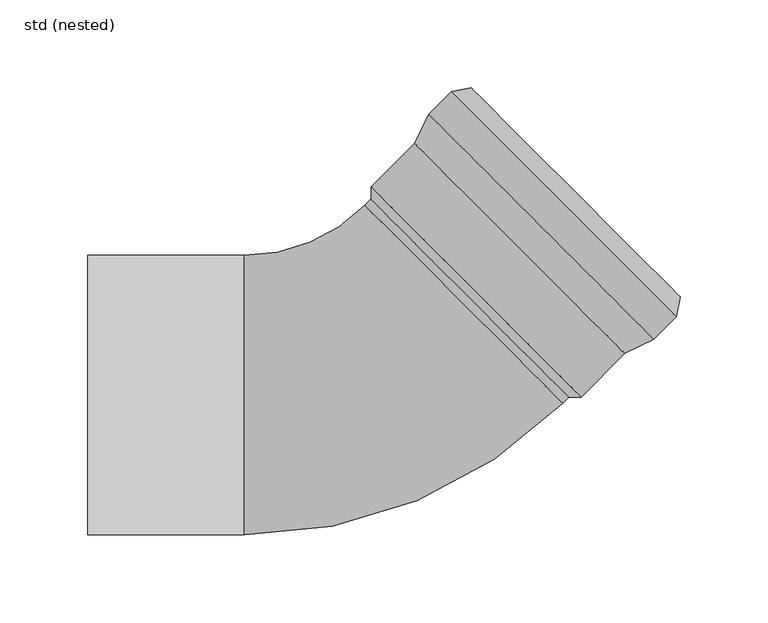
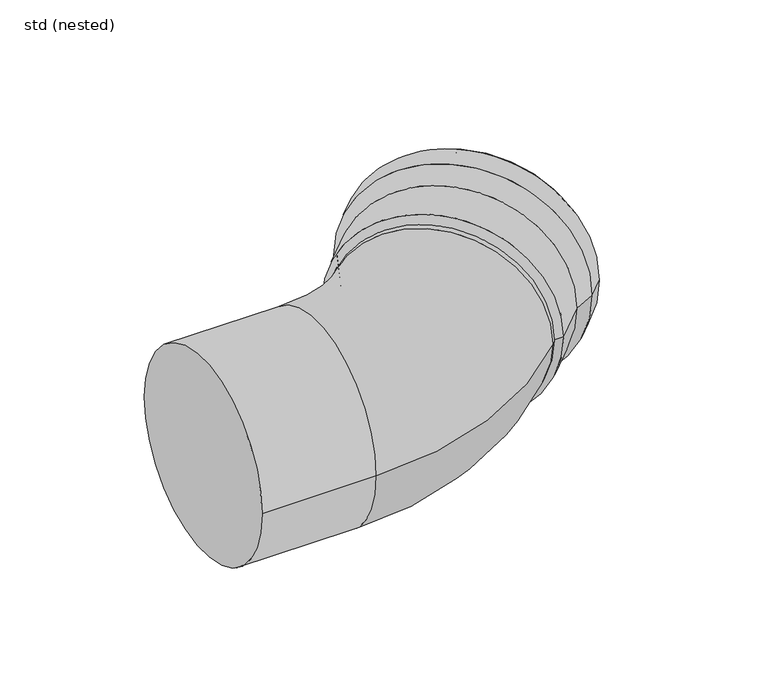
"""IFC4 building model written with IfcOpenShell, lengths in millimetres: pipe fitting geometry, ZZZ_do not use_PIF_ST_UN_GM-X pipe bend_ACO : std (nested)."""

from ifc_helpers import new_model, si_unit, point, frame, origin, place, context, project, spatial, polyline, circle_curve, ellipse_curve, trimmed, source, transform, mapped, element, save
from ifc_brep_helpers import plane_surface, cylinder_surface, revolved_surface, advanced_brep


def std_nested_8823e034(model_context):
    return source(origin(), model_context, "Body", "AdvancedBrep", [
        advanced_brep(
        [(159.8061325, 31.8198052, 0.0), (31.8198052, 159.8061325, 0.0), (44.5477272, 172.5340546, 0.0), (172.5340546, 44.5477272, 0.0), (143.1891232, 23.6880772, 0.0), (23.6880772, 143.1891232, 0.0), (55.8614357, 174.655375, 0.0), (174.655375, 55.8614357, 0.0), (118.4403858, -1.0606602, 0.0), (-1.0606602, 118.4403858, 0.0), (111.369318, -1.0606602, 0.0), (-1.0606602, 111.369318, 0.0), (114.9048519, 2.4748737, 0.0), (2.4748737, 114.9048519, 0.0), (141.7159841, 25.7504719, 0.0), (25.7504719, 141.7159841, 0.0), (0.7071068, 116.6726189, 0.0), (116.6726189, 0.7071068, 0.0), (158.3329934, 33.8821999, 0.0), (33.8821999, 158.3329934, 0.0), (170.2194046, 45.7686111, 0.0), (45.7686111, 170.2194046, 0.0), (172.1981945, 56.3221571, 0.0), (56.3221571, 172.1981945, 0.0)],
        [
            (0, 1, circle_curve(frame((95.8129689, 95.8129689, 0.0), z_axis=(0.707106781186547, 0.707106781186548, 0.0), x_axis=(-0.707106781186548, 0.707106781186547, 0.0)), 90.5)),
            (1, 2),
            (2, 3, circle_curve(frame((108.5408909, 108.5408909, 0.0), z_axis=(-0.707106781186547, -0.707106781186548, 0.0), x_axis=(-0.707106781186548, 0.707106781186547, 0.0)), 90.5)),
            (3, 0),
            (1, 0, circle_curve(frame((95.8129689, 95.8129689, 0.0), z_axis=(0.707106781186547, 0.707106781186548, 0.0), x_axis=(-0.707106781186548, 0.707106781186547, 0.0)), 90.5)),
            (3, 2, circle_curve(frame((108.5408909, 108.5408909, 0.0), z_axis=(-0.707106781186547, -0.707106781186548, 0.0), x_axis=(-0.707106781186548, 0.707106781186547, 0.0)), 90.5)),
            (4, 5, circle_curve(frame((83.4386002, 83.4386002, 0.0), z_axis=(0.707106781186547, 0.707106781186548, 0.0), x_axis=(-0.707106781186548, 0.707106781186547, 0.0)), 84.5)),
            (5, 1),
            (0, 4),
            (5, 4, circle_curve(frame((83.4386002, 83.4386002, 0.0), z_axis=(0.707106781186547, 0.707106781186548, 0.0), x_axis=(-0.707106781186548, 0.707106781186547, 0.0)), 84.5)),
            (2, 6),
            (6, 7, circle_curve(frame((115.2584053, 115.2584053, 0.0), z_axis=(-0.707106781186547, -0.707106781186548, 0.0), x_axis=(-0.707106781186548, 0.707106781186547, 0.0)), 84.0)),
            (7, 3),
            (7, 6, circle_curve(frame((115.2584053, 115.2584053, 0.0), z_axis=(-0.707106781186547, -0.707106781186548, 0.0), x_axis=(-0.707106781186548, 0.707106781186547, 0.0)), 84.0)),
            (8, 9, circle_curve(frame((58.6898628, 58.6898628, 0.0), z_axis=(0.707106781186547, 0.707106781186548, 0.0), x_axis=(-0.707106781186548, 0.707106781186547, 0.0)), 84.5)),
            (9, 5),
            (4, 8),
            (9, 8, circle_curve(frame((58.6898628, 58.6898628, 0.0), z_axis=(0.707106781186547, 0.707106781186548, 0.0), x_axis=(-0.707106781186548, 0.707106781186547, 0.0)), 84.5)),
            (10, 11, circle_curve(frame((55.1543289, 55.1543289, 0.0), z_axis=(0.707106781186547, 0.707106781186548, 0.0), x_axis=(-0.707106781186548, 0.707106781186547, 0.0)), 79.5)),
            (11, 9),
            (8, 10),
            (11, 10, circle_curve(frame((55.1543289, 55.1543289, 0.0), z_axis=(0.707106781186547, 0.707106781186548, 0.0), x_axis=(-0.707106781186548, 0.707106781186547, 0.0)), 79.5)),
            (12, 13, circle_curve(frame((58.6898628, 58.6898628, 0.0), z_axis=(0.707106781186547, 0.707106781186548, 0.0), x_axis=(-0.707106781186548, 0.707106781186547, 0.0)), 79.5)),
            (13, 11),
            (10, 12),
            (13, 12, circle_curve(frame((58.6898628, 58.6898628, 0.0), z_axis=(0.707106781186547, 0.707106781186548, 0.0), x_axis=(-0.707106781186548, 0.707106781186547, 0.0)), 79.5)),
            (14, 15, circle_curve(frame((83.733228, 83.733228, 0.0), z_axis=(0.707106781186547, 0.707106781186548, 0.0), x_axis=(-0.707106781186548, 0.707106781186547, 0.0)), 82.0)),
            (15, 16),
            (16, 17, circle_curve(frame((58.6898628, 58.6898628, 0.0), z_axis=(-0.707106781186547, -0.707106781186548, 0.0), x_axis=(-0.707106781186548, 0.707106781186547, 0.0)), 82.0)),
            (17, 14),
            (15, 14, circle_curve(frame((83.733228, 83.733228, 0.0), z_axis=(0.707106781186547, 0.707106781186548, 0.0), x_axis=(-0.707106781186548, 0.707106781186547, 0.0)), 82.0)),
            (17, 16, circle_curve(frame((58.6898628, 58.6898628, 0.0), z_axis=(-0.707106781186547, -0.707106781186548, 0.0), x_axis=(-0.707106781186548, 0.707106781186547, 0.0)), 82.0)),
            (18, 19, circle_curve(frame((96.1075967, 96.1075967, 0.0), z_axis=(0.707106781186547, 0.707106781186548, 0.0), x_axis=(-0.707106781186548, 0.707106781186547, 0.0)), 88.0)),
            (19, 15),
            (14, 18),
            (19, 18, circle_curve(frame((96.1075967, 96.1075967, 0.0), z_axis=(0.707106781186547, 0.707106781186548, 0.0), x_axis=(-0.707106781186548, 0.707106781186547, 0.0)), 88.0)),
            (20, 21, circle_curve(frame((107.9940079, 107.9940079, 0.0), z_axis=(0.707106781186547, 0.707106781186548, 0.0), x_axis=(-0.707106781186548, 0.707106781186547, 0.0)), 88.0)),
            (21, 19),
            (18, 20),
            (21, 20, circle_curve(frame((107.9940079, 107.9940079, 0.0), z_axis=(0.707106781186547, 0.707106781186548, 0.0), x_axis=(-0.707106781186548, 0.707106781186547, 0.0)), 88.0)),
            (22, 23, circle_curve(frame((114.2601758, 114.2601758, 0.0), z_axis=(0.707106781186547, 0.707106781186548, 0.0), x_axis=(-0.707106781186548, 0.707106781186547, 0.0)), 81.9367318)),
            (23, 21),
            (20, 22),
            (23, 22, circle_curve(frame((114.2601758, 114.2601758, 0.0), z_axis=(0.707106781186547, 0.707106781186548, 0.0), x_axis=(-0.707106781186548, 0.707106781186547, 0.0)), 81.9367318)),
            (6, 23),
            (22, 7),
            (16, 13),
            (12, 17),
        ],
        [
            cylinder_surface(frame((112.8856461, 112.8856461, 0.0), z_axis=(-0.707106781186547, -0.707106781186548, 0.0), x_axis=(-0.707106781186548, 0.707106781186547, 0.0)), 90.5),
            revolved_surface(polyline([(31.8198052, 159.8061325, 0.0), (23.6880772, 143.1891232, 0.0)]), (112.8856461, 112.8856461, 0.0), (-0.707106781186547, -0.707106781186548, 0.0)),
            revolved_surface(polyline([(55.8614357, 174.655375, 0.0), (44.5477272, 172.5340546, 0.0)]), (112.8856461, 112.8856461, 0.0), (-0.707106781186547, -0.707106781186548, 0.0)),
            cylinder_surface(frame((112.8856461, 112.8856461, 0.0), z_axis=(-0.707106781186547, -0.707106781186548, 0.0), x_axis=(-0.707106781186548, 0.707106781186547, 0.0)), 84.5),
            revolved_surface(polyline([(-1.0606602, 118.4403858, 0.0), (-1.0606602, 111.369318, 0.0)]), (112.8856461, 112.8856461, 0.0), (-0.707106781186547, -0.707106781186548, 0.0)),
            revolved_surface(polyline([(-1.06066020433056, 111.36931800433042, 0.0), (2.4748736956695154, 114.90485190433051, 0.0)]), (112.8856461, 112.8856461, 0.0), (-0.707106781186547, -0.707106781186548, 0.0)),
            revolved_surface(polyline([(0.7071067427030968, 116.67261885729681, 0.0), (25.75047194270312, 141.71598405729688, 0.0)]), (112.8856461, 112.8856461, 0.0), (-0.707106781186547, -0.707106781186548, 0.0)),
            revolved_surface(polyline([(25.7504719, 141.7159841, 0.0), (33.8821999, 158.3329934, 0.0)]), (112.8856461, 112.8856461, 0.0), (-0.707106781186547, -0.707106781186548, 0.0)),
            revolved_surface(polyline([(33.88219990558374, 158.3329933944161, 0.0), (45.768611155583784, 170.21940464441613, 0.0)]), (112.8856461, 112.8856461, 0.0), (-0.707106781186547, -0.707106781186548, 0.0)),
            revolved_surface(polyline([(45.7686111, 170.2194046, 0.0), (56.3221571, 172.1981945, 0.0)]), (112.8856461, 112.8856461, 0.0), (-0.707106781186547, -0.707106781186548, 0.0)),
            revolved_surface(polyline([(56.3221571, 172.1981945, 0.0), (55.8614357, 174.655375, 0.0)]), (112.8856461, 112.8856461, 0.0), (-0.707106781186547, -0.707106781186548, 0.0)),
            plane_surface(frame((58.6898628, 58.6898628, 0.0), z_axis=(0.707106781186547, 0.707106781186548, 0.0), x_axis=(-0.707106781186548, 0.707106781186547, 0.0))),
        ],
        [
            (0, [[1, 2, 3, 4]]),
            (0, [[5, -4, 6, -2]]),
            (1, [[7, 8, -1, 9]]),
            (1, [[10, -9, -5, -8]]),
            (2, [[-3, 11, 12, 13]]),
            (2, [[-6, -13, 14, -11]]),
            (3, [[15, 16, -7, 17]]),
            (3, [[18, -17, -10, -16]]),
            (4, [[19, 20, -15, 21]]),
            (4, [[22, -21, -18, -20]]),
            (5, [[23, 24, -19, 25]]),
            (5, [[26, -25, -22, -24]]),
            (6, [[27, 28, 29, 30]]),
            (6, [[31, -30, 32, -28]]),
            (7, [[33, 34, -27, 35]]),
            (7, [[36, -35, -31, -34]]),
            (8, [[37, 38, -33, 39]]),
            (8, [[40, -39, -36, -38]]),
            (9, [[41, 42, -37, 43]]),
            (9, [[44, -43, -40, -42]]),
            (10, [[-12, 45, -41, 46]]),
            (10, [[-14, -46, -44, -45]]),
            (11, [[-29, 47, -23, 48]]),
            (11, [[-32, -48, -26, -47]]),
        ],
    ),
        advanced_brep(
        [(-4.5961941, 107.8337841, 0.0), (-73.0, 79.5, 0.0), (-73.0, -79.5, 0.0), (107.8337841, -4.5961941, 0.0), (51.618795, 51.618795, 79.5), (51.618795, 51.618795, -79.5), (-162.0, -79.5, 0.0), (-162.0, 79.5, 0.0), (114.9048519, 2.4748737, 0.0), (2.4748737, 114.9048519, 0.0)],
        [
            (0, 1, circle_curve(frame((-73.0, 176.2375901, 0.0), z_axis=(0.0, 0.0, -1.0), x_axis=(0.0, -1.0, 0.0)), 96.7375901)),
            (1, 2, circle_curve(frame((-73.0, 0.0, 0.0), z_axis=(1.0, 0.0, 0.0), x_axis=(0.0, 1.0, 0.0)), 79.5)),
            (2, 3, circle_curve(frame((-73.0, 176.2375901, 0.0), z_axis=(0.0, 0.0, 1.0), x_axis=(0.0, -1.0, 0.0)), 255.7375901)),
            (3, 4, circle_curve(frame((51.618795, 51.618795, 0.0), z_axis=(-0.7071067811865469, -0.7071067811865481, 0.0), x_axis=(-0.7071067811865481, 0.7071067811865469, 0.0)), 79.5)),
            (4, 0, circle_curve(frame((51.618795, 51.618795, 0.0), z_axis=(-0.7071067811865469, -0.7071067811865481, 0.0), x_axis=(-0.7071067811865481, 0.7071067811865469, 0.0)), 79.5)),
            (0, 5, circle_curve(frame((51.618795, 51.618795, 0.0), z_axis=(-0.7071067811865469, -0.7071067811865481, 0.0), x_axis=(-0.7071067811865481, 0.7071067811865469, 0.0)), 79.5)),
            (5, 3, circle_curve(frame((51.618795, 51.618795, 0.0), z_axis=(-0.7071067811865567, -0.7071067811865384, 0.0), x_axis=(-0.7071067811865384, 0.7071067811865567, 0.0)), 79.5)),
            (2, 1, circle_curve(frame((-73.0, 0.0, 0.0), z_axis=(1.0, 0.0, 0.0), x_axis=(0.0, 1.0, 0.0)), 79.5)),
            (6, 7, circle_curve(frame((-162.0, 0.0, 0.0), z_axis=(-1.0, 0.0, 0.0), x_axis=(0.0, 1.0, 0.0)), 79.5)),
            (7, 6, circle_curve(frame((-162.0, 0.0, 0.0), z_axis=(-1.0, 0.0, 0.0), x_axis=(0.0, 1.0, 0.0)), 79.5)),
            (7, 1),
            (2, 6),
            (8, 9, circle_curve(frame((58.6898628, 58.6898628, 0.0), z_axis=(0.7071067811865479, 0.7071067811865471, 0.0), x_axis=(-0.7071067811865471, 0.7071067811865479, 0.0)), 79.5)),
            (9, 8, circle_curve(frame((58.6898628, 58.6898628, 0.0), z_axis=(0.7071067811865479, 0.7071067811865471, 0.0), x_axis=(-0.7071067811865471, 0.7071067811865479, 0.0)), 79.5)),
            (9, 0),
            (3, 8),
        ],
        [
            revolved_surface(trimmed(ellipse_curve(frame((-73.0, 0.0, 0.0), z_axis=(-1.0, 0.0, 0.0), x_axis=(0.0, 1.0, 0.0)), 79.5, 79.5), [point((-73.0, -79.5, 0.0))], [point((-73.0, 79.5, 0.0))], True, "CARTESIAN"), (-73.0, 176.2375901, 0.0), (0.0, 0.0, 1.0)),
            revolved_surface(trimmed(ellipse_curve(frame((-73.0, 0.0, 0.0), z_axis=(-1.0, 0.0, 0.0), x_axis=(0.0, 1.0, 0.0)), 79.5, 79.5), [point((-73.0, 79.5, 0.0))], [point((-73.0, -79.5, 0.0))], True, "CARTESIAN"), (-73.0, 176.2375901, 0.0), (0.0, 0.0, 1.0)),
            plane_surface(frame((-162.0, 79.5, 0.0), z_axis=(-1.0, 0.0, 0.0), x_axis=(0.0, 0.0, -1.0))),
            cylinder_surface(frame((-162.0, 0.0, 0.0), z_axis=(1.0, 0.0, 0.0), x_axis=(0.0, 1.0, 0.0)), 79.5),
            plane_surface(frame((58.6898628, 58.6898628, 0.0), z_axis=(0.7071067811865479, 0.7071067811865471, 0.0), x_axis=(0.0, 0.0, 1.0))),
            cylinder_surface(frame((51.618795, 51.618795, 0.0), z_axis=(-0.7071067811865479, -0.7071067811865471, 0.0), x_axis=(-0.7071067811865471, 0.7071067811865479, 0.0)), 79.5),
        ],
        [
            (0, [[1, 2, 3, 4, 5]]),
            (1, [[-1, 6, 7, -3, 8]]),
            (2, [[9, 10]]),
            (3, [[-10, 11, -8, 12]]),
            (3, [[-9, -12, -2, -11]]),
            (4, [[13, 14]]),
            (5, [[-14, 15, -5, -4, 16]]),
            (5, [[-13, -16, -7, -6, -15]]),
        ],
    ),
    ])


if __name__ == "__main__":
    model = new_model("IFC4")
    model_context = context("Model", 3, world=origin())
    ifc_project = project(units=[si_unit("LENGTHUNIT", "METRE", prefix="MILLI")], contexts=[model_context])
    site = spatial("IfcSite", under=ifc_project)
    building = spatial("IfcBuilding", under=site)
    placement = place(None, origin())
    std_nested_shape = std_nested_8823e034(model_context)
    element("IfcPipeFitting", 1, ObjectType="ZZZ_do not use_PIF_ST_UN_GM-X pipe bend_ACO : std (nested)", at=placement, inside=building, context=model_context, shape_type="MappedRepresentation", body=[
        mapped(std_nested_shape, transform((0.0, 0.0, 0.0), x_axis=(1.0, 0.0, 0.0), y_axis=(0.0, 1.0, 0.0), z_axis=(0.0, 0.0, 1.0))),
    ])
    save(model, "model.ifc")
